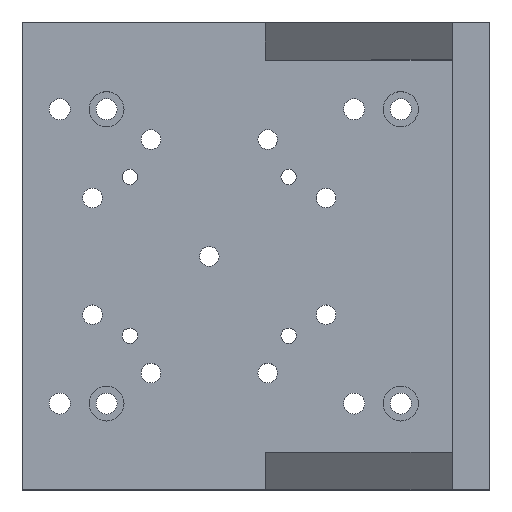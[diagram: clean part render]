
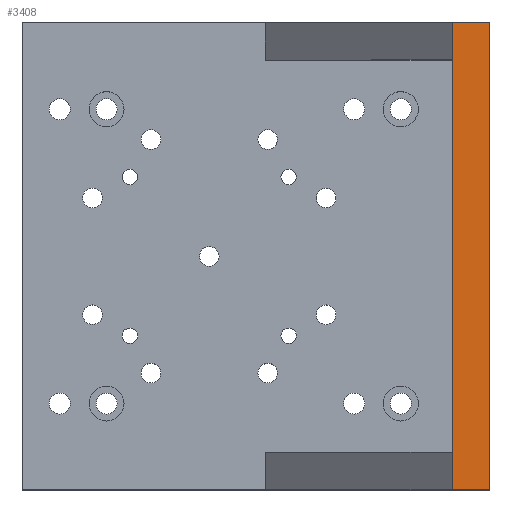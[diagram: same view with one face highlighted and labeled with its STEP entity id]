
A CAD part, top view. The second image highlights one B-rep face of the part: STEP entity #3408.
In plain terms, the highlighted planar face has unit normal (0, 0, 1) as drawn and (0, 1, 0) by its records, which use the part's own axes.
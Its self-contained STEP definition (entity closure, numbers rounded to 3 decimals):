
#65 = LINE ( 'NONE', #985, #2906 ) ;
#493 = DIRECTION ( 'NONE',  ( 0., -1., 0. ) ) ;
#510 = PLANE ( 'NONE',  #2111 ) ;
#511 = ORIENTED_EDGE ( 'NONE', *, *, #3549, .F. ) ;
#580 = CARTESIAN_POINT ( 'NONE',  ( 50., 50., 4. ) ) ;
#758 = VERTEX_POINT ( 'NONE', #2001 ) ;
#822 = DIRECTION ( 'NONE',  ( 0., 0., -1. ) ) ;
#952 = CARTESIAN_POINT ( 'NONE',  ( -50., 50., 4. ) ) ;
#973 = LINE ( 'NONE', #1151, #3561 ) ;
#985 = CARTESIAN_POINT ( 'NONE',  ( -50., 50., 4. ) ) ;
#999 = VERTEX_POINT ( 'NONE', #1143 ) ;
#1126 = EDGE_CURVE ( 'NONE', #999, #4060, #65, .T. ) ;
#1143 = CARTESIAN_POINT ( 'NONE',  ( -50., 50., 4. ) ) ;
#1151 = CARTESIAN_POINT ( 'NONE',  ( -50., 50., -4. ) ) ;
#1172 = ORIENTED_EDGE ( 'NONE', *, *, #1126, .F. ) ;
#1203 = CARTESIAN_POINT ( 'NONE',  ( -50., 50., -4. ) ) ;
#1532 = VECTOR ( 'NONE', #1910, 1000. ) ;
#1910 = DIRECTION ( 'NONE',  ( 0., 0., -1. ) ) ;
#1952 = EDGE_CURVE ( 'NONE', #758, #4060, #973, .T. ) ;
#2001 = CARTESIAN_POINT ( 'NONE',  ( 50., 50., -4. ) ) ;
#2111 = AXIS2_PLACEMENT_3D ( 'NONE', #3099, #493, #822 ) ;
#2122 = LINE ( 'NONE', #952, #2257 ) ;
#2257 = VECTOR ( 'NONE', #3438, 1000. ) ;
#2463 = CARTESIAN_POINT ( 'NONE',  ( 50., 50., 4. ) ) ;
#2906 = VECTOR ( 'NONE', #3571, 1000. ) ;
#3099 = CARTESIAN_POINT ( 'NONE',  ( -50., 50., 4. ) ) ;
#3130 = FACE_OUTER_BOUND ( 'NONE', #4104, .T. ) ;
#3238 = ORIENTED_EDGE ( 'NONE', *, *, #1952, .T. ) ;
#3246 = ORIENTED_EDGE ( 'NONE', *, *, #3293, .T. ) ;
#3293 = EDGE_CURVE ( 'NONE', #3457, #758, #3371, .T. ) ;
#3371 = LINE ( 'NONE', #580, #1532 ) ;
#3382 = DIRECTION ( 'NONE',  ( -1., 0., 0. ) ) ;
#3408 = ADVANCED_FACE ( 'NONE', ( #3130 ), #510, .F. ) ;
#3438 = DIRECTION ( 'NONE',  ( -1., 0., 0. ) ) ;
#3457 = VERTEX_POINT ( 'NONE', #2463 ) ;
#3549 = EDGE_CURVE ( 'NONE', #3457, #999, #2122, .T. ) ;
#3561 = VECTOR ( 'NONE', #3382, 1000. ) ;
#3571 = DIRECTION ( 'NONE',  ( 0., 0., -1. ) ) ;
#4060 = VERTEX_POINT ( 'NONE', #1203 ) ;
#4104 = EDGE_LOOP ( 'NONE', ( #3238, #1172, #511, #3246 ) ) ;
